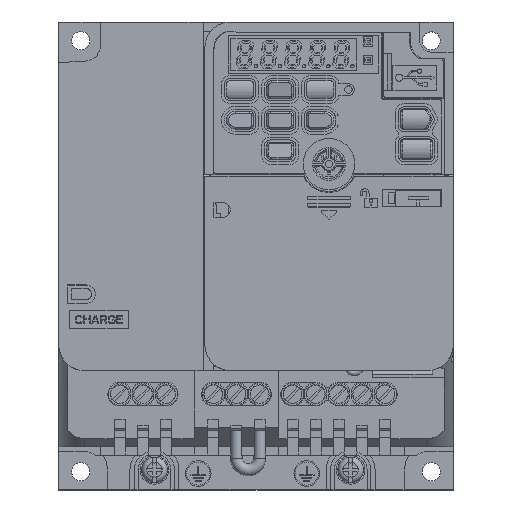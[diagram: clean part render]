
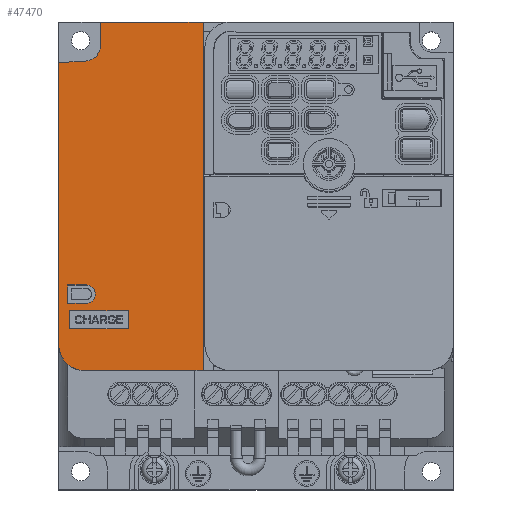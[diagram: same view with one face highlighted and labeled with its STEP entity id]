
A CAD part, top view. The second image highlights one B-rep face of the part: STEP entity #47470.
In plain terms, the highlighted planar face has unit normal (0, 0, 1).
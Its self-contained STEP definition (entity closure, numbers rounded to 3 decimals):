
#6238=CARTESIAN_POINT('',(-47.,39.6,99.));
#6239=DIRECTION('',(0.,0.,1.));
#6240=DIRECTION('',(-1.,0.,0.));
#6241=AXIS2_PLACEMENT_3D('',#6238,#6239,#6240);
#6243=DIRECTION('',(0.,-1.,0.));
#6244=VECTOR('',#6243,77.297);
#6245=CARTESIAN_POINT('',(-54.,116.897,99.));
#6246=LINE('',#6245,#6244);
#6247=DIRECTION('',(0.999,0.052,0.));
#6248=VECTOR('',#6247,7.245);
#6249=CARTESIAN_POINT('',(-54.,116.897,99.));
#6250=LINE('',#6249,#6248);
#6251=DIRECTION('',(0.,-1.,0.));
#6252=VECTOR('',#6251,6.23);
#6253=CARTESIAN_POINT('',(-42.5,128.,99.));
#6254=LINE('',#6253,#6252);
#6255=DIRECTION('',(-1.,0.,0.));
#6256=VECTOR('',#6255,28.);
#6257=CARTESIAN_POINT('',(-14.5,128.,99.));
#6258=LINE('',#6257,#6256);
#6259=DIRECTION('',(0.,1.,0.));
#6260=VECTOR('',#6259,95.4);
#6261=CARTESIAN_POINT('',(-14.5,32.6,99.));
#6262=LINE('',#6261,#6260);
#6263=DIRECTION('',(1.,0.,0.));
#6264=VECTOR('',#6263,32.5);
#6265=CARTESIAN_POINT('',(-47.,32.6,99.));
#6266=LINE('',#6265,#6264);
#6267=DIRECTION('',(-1.,0.,0.));
#6268=VECTOR('',#6267,5.);
#6269=CARTESIAN_POINT('',(-46.5,51.,99.));
#6270=LINE('',#6269,#6268);
#6271=CARTESIAN_POINT('',(-46.5,53.5,99.));
#6272=DIRECTION('',(0.,0.,-1.));
#6273=DIRECTION('',(0.,1.,0.));
#6274=AXIS2_PLACEMENT_3D('',#6271,#6272,#6273);
#6276=DIRECTION('',(1.,0.,0.));
#6277=VECTOR('',#6276,5.);
#6278=CARTESIAN_POINT('',(-51.5,56.,99.));
#6279=LINE('',#6278,#6277);
#6280=DIRECTION('',(0.,1.,0.));
#6281=VECTOR('',#6280,5.);
#6282=CARTESIAN_POINT('',(-51.5,51.,99.));
#6283=LINE('',#6282,#6281);
#6284=DIRECTION('',(0.,-1.,0.));
#6285=VECTOR('',#6284,5.);
#6286=CARTESIAN_POINT('',(-51.,49.,99.));
#6287=LINE('',#6286,#6285);
#6288=DIRECTION('',(1.,0.,0.));
#6289=VECTOR('',#6288,16.);
#6290=CARTESIAN_POINT('',(-51.,44.,99.));
#6291=LINE('',#6290,#6289);
#6292=DIRECTION('',(0.,1.,0.));
#6293=VECTOR('',#6292,5.);
#6294=CARTESIAN_POINT('',(-35.,44.,99.));
#6295=LINE('',#6294,#6293);
#6296=DIRECTION('',(-1.,0.,0.));
#6297=VECTOR('',#6296,16.);
#6298=CARTESIAN_POINT('',(-35.,49.,99.));
#6299=LINE('',#6298,#6297);
#6309=CARTESIAN_POINT('',(-47.,121.77,99.));
#6310=DIRECTION('',(0.,0.,-1.));
#6311=DIRECTION('',(1.,0.,0.));
#6312=AXIS2_PLACEMENT_3D('',#6309,#6310,#6311);
#32148=CARTESIAN_POINT('',(-14.5,32.6,99.));
#32149=CARTESIAN_POINT('',(-14.5,128.,99.));
#32150=VERTEX_POINT('',#32148);
#32151=VERTEX_POINT('',#32149);
#32726=CARTESIAN_POINT('',(-42.5,128.,99.));
#32727=VERTEX_POINT('',#32726);
#33600=CARTESIAN_POINT('',(-51.,49.,99.));
#33601=CARTESIAN_POINT('',(-51.,44.,99.));
#33602=VERTEX_POINT('',#33600);
#33603=VERTEX_POINT('',#33601);
#33604=CARTESIAN_POINT('',(-35.,44.,99.));
#33605=VERTEX_POINT('',#33604);
#33606=CARTESIAN_POINT('',(-35.,49.,99.));
#33607=VERTEX_POINT('',#33606);
#34104=CARTESIAN_POINT('',(-54.,116.897,99.));
#34106=VERTEX_POINT('',#34104);
#34108=CARTESIAN_POINT('',(-46.764,117.277,99.));
#34110=VERTEX_POINT('',#34108);
#34112=CARTESIAN_POINT('',(-42.5,121.77,99.));
#34114=VERTEX_POINT('',#34112);
#34306=CARTESIAN_POINT('',(-46.5,51.,99.));
#34307=CARTESIAN_POINT('',(-51.5,51.,99.));
#34308=VERTEX_POINT('',#34306);
#34309=VERTEX_POINT('',#34307);
#34310=CARTESIAN_POINT('',(-51.5,56.,99.));
#34311=VERTEX_POINT('',#34310);
#34312=CARTESIAN_POINT('',(-46.5,56.,99.));
#34313=VERTEX_POINT('',#34312);
#36215=CARTESIAN_POINT('',(-54.,39.6,99.));
#36217=VERTEX_POINT('',#36215);
#36219=CARTESIAN_POINT('',(-47.,32.6,99.));
#36220=VERTEX_POINT('',#36219);
#47429=CARTESIAN_POINT('',(0.,0.,99.));
#47430=DIRECTION('',(0.,0.,1.));
#47431=DIRECTION('',(1.,0.,0.));
#47432=AXIS2_PLACEMENT_3D('',#47429,#47430,#47431);
#47433=PLANE('',#47432);
#47434=ORIENTED_EDGE('',*,*,#47406,.F.);
#47435=ORIENTED_EDGE('',*,*,#47220,.F.);
#47437=ORIENTED_EDGE('',*,*,#47436,.T.);
#47439=ORIENTED_EDGE('',*,*,#47438,.F.);
#47441=ORIENTED_EDGE('',*,*,#47440,.F.);
#47443=ORIENTED_EDGE('',*,*,#47442,.F.);
#47445=ORIENTED_EDGE('',*,*,#47444,.F.);
#47447=ORIENTED_EDGE('',*,*,#47446,.F.);
#47448=EDGE_LOOP('',(#47434,#47435,#47437,#47439,#47441,#47443,#47445,#47447));
#47449=FACE_OUTER_BOUND('',#47448,.F.);
#47451=ORIENTED_EDGE('',*,*,#47450,.F.);
#47453=ORIENTED_EDGE('',*,*,#47452,.F.);
#47455=ORIENTED_EDGE('',*,*,#47454,.F.);
#47457=ORIENTED_EDGE('',*,*,#47456,.F.);
#47458=EDGE_LOOP('',(#47451,#47453,#47455,#47457));
#47459=FACE_BOUND('',#47458,.F.);
#47461=ORIENTED_EDGE('',*,*,#47460,.T.);
#47463=ORIENTED_EDGE('',*,*,#47462,.T.);
#47465=ORIENTED_EDGE('',*,*,#47464,.T.);
#47467=ORIENTED_EDGE('',*,*,#47466,.T.);
#47468=EDGE_LOOP('',(#47461,#47463,#47465,#47467));
#47469=FACE_BOUND('',#47468,.F.);
#6242=CIRCLE('',#6241,7.);
#6275=CIRCLE('',#6274,2.5);
#6313=CIRCLE('',#6312,4.5);
#47220=EDGE_CURVE('',#34106,#36217,#6246,.T.);
#47406=EDGE_CURVE('',#36217,#36220,#6242,.T.);
#47436=EDGE_CURVE('',#34106,#34110,#6250,.T.);
#47438=EDGE_CURVE('',#34114,#34110,#6313,.T.);
#47440=EDGE_CURVE('',#32727,#34114,#6254,.T.);
#47442=EDGE_CURVE('',#32151,#32727,#6258,.T.);
#47444=EDGE_CURVE('',#32150,#32151,#6262,.T.);
#47446=EDGE_CURVE('',#36220,#32150,#6266,.T.);
#47450=EDGE_CURVE('',#34308,#34309,#6270,.T.);
#47452=EDGE_CURVE('',#34313,#34308,#6275,.T.);
#47454=EDGE_CURVE('',#34311,#34313,#6279,.T.);
#47456=EDGE_CURVE('',#34309,#34311,#6283,.T.);
#47460=EDGE_CURVE('',#33602,#33603,#6287,.T.);
#47462=EDGE_CURVE('',#33603,#33605,#6291,.T.);
#47464=EDGE_CURVE('',#33605,#33607,#6295,.T.);
#47466=EDGE_CURVE('',#33607,#33602,#6299,.T.);
#47470=ADVANCED_FACE('',(#47449,#47459,#47469),#47433,.T.);
